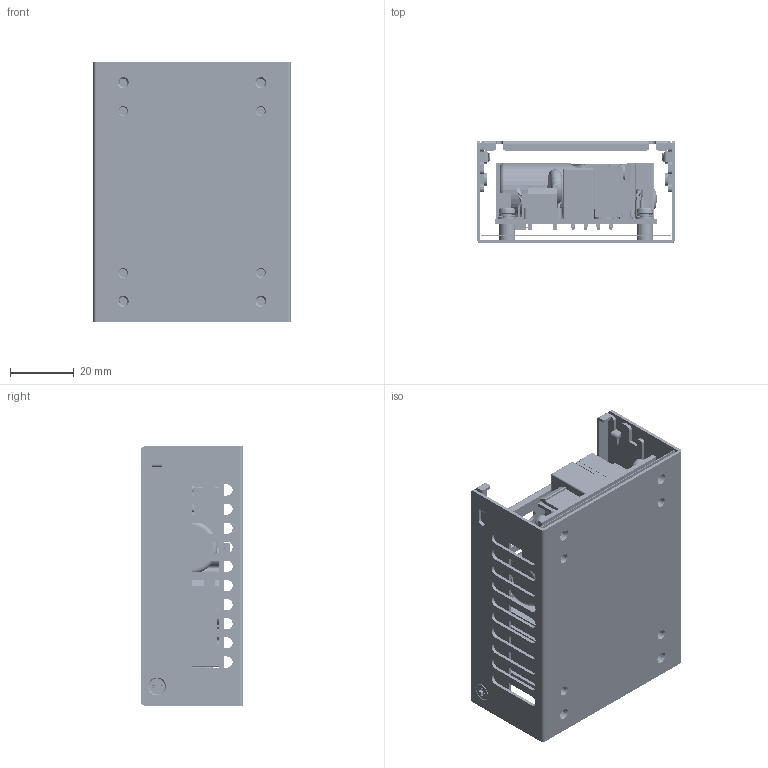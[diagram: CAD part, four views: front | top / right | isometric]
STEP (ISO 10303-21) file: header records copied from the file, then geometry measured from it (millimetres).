
FILE_DESCRIPTION (( 'STEP AP203' ), '1' );
FILE_NAME ('CFM40MXXX-C-1130102.STEP', '2024-08-02T09:23:01', ( '' ), ( '' ), 'SwSTEP 2.0', 'SolidWorks 2020', '' );
FILE_SCHEMA (( 'CONFIG_CONTROL_DESIGN' ));
Products named in the file (1): CFM40MXXX-C-1130102
Bounding box: 62 x 32 x 81.28 mm (x, y, z)
Volume: 47986.5 mm3; surface area: 67798.2 mm2
Topology: 3 solids, 49 shells, 2363 faces, 6501 edges, 4182 vertices
Faces by surface type: plane 1180, cylinder 647, torus 307, bspline 181, cone 40, sphere 8
Full cylindrical faces by diameter (mm): 0.4 x2, 0.5 x4, 0.583 x2, 0.6 x14, 0.7 x11, 0.8 x14, 0.9 x6, 1 x7, 1.2 x3, 1.4 x4, 1.5 x6, 1.7 x4, 1.8 x6, 2 x2, 2.7 x1, 2.8 x4, 2.846 x4, 3 x1, 3.3 x2, 3.4 x2, 3.6 x4, 3.8 x3, 4 x8, 4.45 x4, 5 x2, 5.1 x2, 5.2 x8, 5.246 x4, 5.4 x2, 5.8 x4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
Entity records: 112471 total; most frequent: CARTESIAN_POINT 56323, ORIENTED_EDGE 11582, DIRECTION 10944, EDGE_CURVE 5791, VERTEX_POINT 3994, AXIS2_PLACEMENT_3D 3791, VECTOR 3362, LINE 3362
